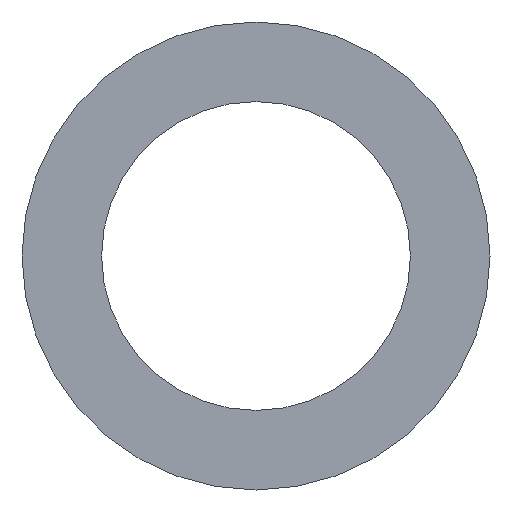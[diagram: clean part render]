
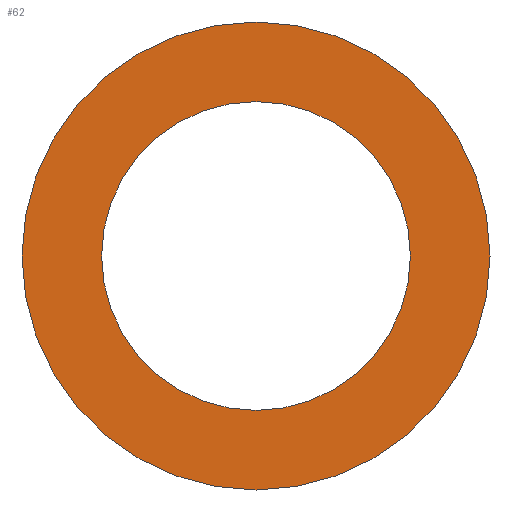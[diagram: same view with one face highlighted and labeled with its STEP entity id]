
A CAD part, front view. The second image highlights one B-rep face of the part: STEP entity #62.
In plain terms, the highlighted planar face has unit normal (0, -1, 0).
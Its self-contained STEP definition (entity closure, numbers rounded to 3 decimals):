
#20=PLANE('',#83);
#26=ORIENTED_EDGE('',*,*,#30,.T.);
#27=ORIENTED_EDGE('',*,*,#32,.F.);
#30=EDGE_CURVE('',#34,#34,#38,.T.);
#32=EDGE_CURVE('',#36,#36,#40,.T.);
#34=VERTEX_POINT('',#106);
#36=VERTEX_POINT('',#111);
#38=CIRCLE('',#78,146.5);
#40=CIRCLE('',#81,222.);
#46=EDGE_LOOP('',(#26));
#47=EDGE_LOOP('',(#27));
#54=FACE_BOUND('',#46,.T.);
#55=FACE_BOUND('',#47,.T.);
#62=ADVANCED_FACE('',(#54,#55),#20,.F.);
#78=AXIS2_PLACEMENT_3D('',#105,#89,#90);
#81=AXIS2_PLACEMENT_3D('',#110,#95,#96);
#83=AXIS2_PLACEMENT_3D('',#114,#99,#100);
#89=DIRECTION('',(0.,1.,0.));
#90=DIRECTION('',(1.,0.,0.));
#95=DIRECTION('',(0.,1.,0.));
#96=DIRECTION('',(1.,0.,0.));
#99=DIRECTION('',(0.,1.,0.));
#100=DIRECTION('',(0.,0.,1.));
#105=CARTESIAN_POINT('',(0.,-1.5,0.));
#106=CARTESIAN_POINT('',(146.5,-1.5,0.));
#110=CARTESIAN_POINT('',(0.,-1.5,0.));
#111=CARTESIAN_POINT('',(222.,-1.5,0.));
#114=CARTESIAN_POINT('',(0.,-1.5,0.));
